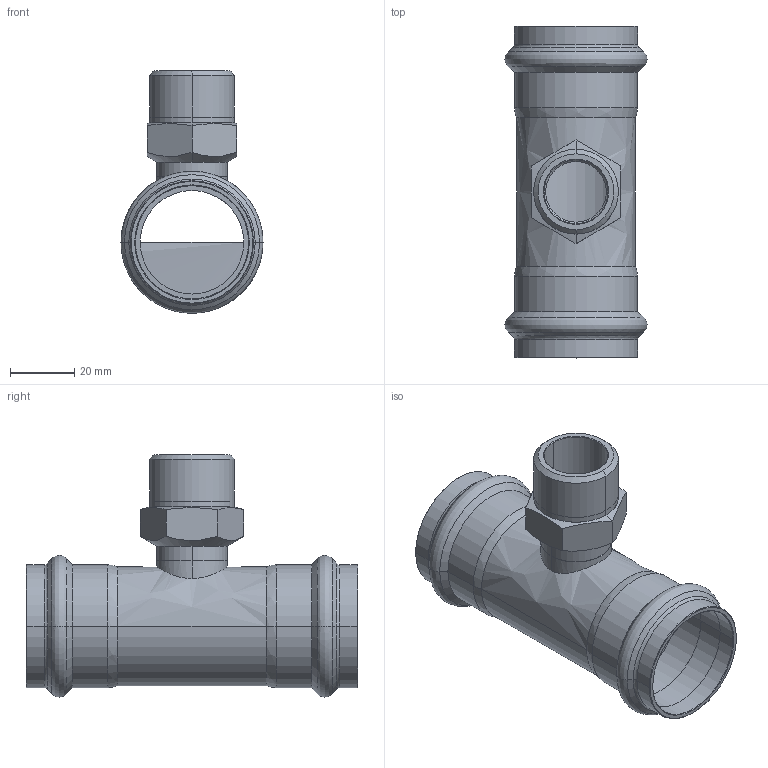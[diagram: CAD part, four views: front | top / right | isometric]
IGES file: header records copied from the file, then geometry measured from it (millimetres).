
Start section: Elysium IGES Interface
Global section: file name: C:\Users\Wallenburg\Desktop\3d modellen sudo\S-Pr VP\SP6132GV\6132GVW353435.igs; native system: CoCreate Modeling 17.00A  17-Jun-2010; preprocessor: CoCreate IGES_3D V2.2; author: Unknown; organization: Unknown; date: 20130123.162931; units: millimetre
Bounding box: 44.3 x 103.51 x 75.63 mm (x, y, z)
Volume: 30268.1 mm3; surface area: 30412.6 mm2
Topology: 1 solids, 1 shells, 114 faces, 255 edges, 141 vertices
Faces by surface type: bspline 114
